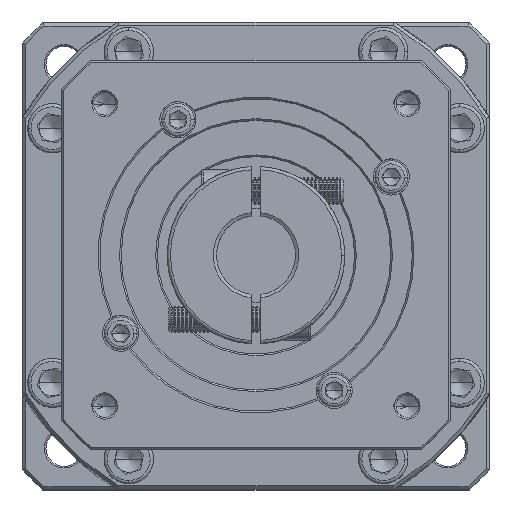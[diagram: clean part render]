
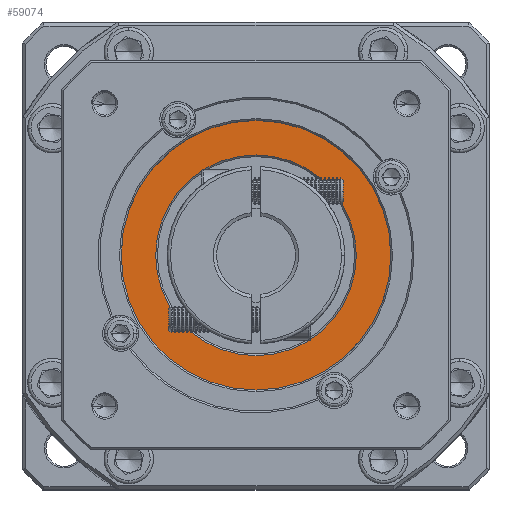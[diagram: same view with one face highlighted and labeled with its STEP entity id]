
A CAD part, top view. The second image highlights one B-rep face of the part: STEP entity #59074.
In plain terms, the highlighted planar face has unit normal (0, 0, 1).
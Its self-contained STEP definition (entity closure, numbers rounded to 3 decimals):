
#5688 = VERTEX_POINT ( 'NONE', #79241 ) ;
#8955 = CARTESIAN_POINT ( 'NONE',  ( -115.127, 57.494, -16.365 ) ) ;
#9331 = AXIS2_PLACEMENT_3D ( 'NONE', #24831, #24392, #45843 ) ;
#10752 = ORIENTED_EDGE ( 'NONE', *, *, #74951, .T. ) ;
#13183 = DIRECTION ( 'NONE',  ( 0., -1., 0. ) ) ;
#20784 = AXIS2_PLACEMENT_3D ( 'NONE', #112591, #73033, #13183 ) ;
#24392 = DIRECTION ( 'NONE',  ( 0., 0., 1. ) ) ;
#24831 = CARTESIAN_POINT ( 'NONE',  ( -115.127, 57.494, -16.365 ) ) ;
#24884 = AXIS2_PLACEMENT_3D ( 'NONE', #8955, #88761, #99197 ) ;
#33096 = PLANE ( 'NONE',  #101205 ) ;
#33825 = VERTEX_POINT ( 'NONE', #58615 ) ;
#34012 = DIRECTION ( 'NONE',  ( 1., 0., 0. ) ) ;
#37346 = EDGE_CURVE ( 'NONE', #33825, #5688, #52560, .T. ) ;
#45843 = DIRECTION ( 'NONE',  ( 1., 0., 0. ) ) ;
#45992 = ORIENTED_EDGE ( 'NONE', *, *, #37346, .T. ) ;
#46732 = CARTESIAN_POINT ( 'NONE',  ( -115.127, 87.994, -16.365 ) ) ;
#52560 = CIRCLE ( 'NONE', #57017, 41. ) ;
#52662 = EDGE_LOOP ( 'NONE', ( #45992, #85103 ) ) ;
#55203 = EDGE_CURVE ( 'NONE', #123706, #68941, #87366, .T. ) ;
#56327 = EDGE_CURVE ( 'NONE', #5688, #33825, #62813, .T. ) ;
#57017 = AXIS2_PLACEMENT_3D ( 'NONE', #102874, #73298, #34012 ) ;
#58615 = CARTESIAN_POINT ( 'NONE',  ( -74.127, 57.494, -16.365 ) ) ;
#59074 = ADVANCED_FACE ( 'NONE', ( #114414, #61552 ), #33096, .T. ) ;
#61552 = FACE_BOUND ( 'NONE', #76775, .T. ) ;
#62813 = CIRCLE ( 'NONE', #9331, 41. ) ;
#64945 = DIRECTION ( 'NONE',  ( 1., 0., 0. ) ) ;
#68941 = VERTEX_POINT ( 'NONE', #46732 ) ;
#73033 = DIRECTION ( 'NONE',  ( 0., 0., -1. ) ) ;
#73298 = DIRECTION ( 'NONE',  ( 0., 0., 1. ) ) ;
#74280 = ORIENTED_EDGE ( 'NONE', *, *, #55203, .T. ) ;
#74951 = EDGE_CURVE ( 'NONE', #68941, #123706, #126063, .T. ) ;
#76775 = EDGE_LOOP ( 'NONE', ( #74280, #10752 ) ) ;
#79241 = CARTESIAN_POINT ( 'NONE',  ( -156.127, 57.494, -16.365 ) ) ;
#85103 = ORIENTED_EDGE ( 'NONE', *, *, #56327, .T. ) ;
#87366 = CIRCLE ( 'NONE', #24884, 30.5 ) ;
#88761 = DIRECTION ( 'NONE',  ( 0., 0., -1. ) ) ;
#94495 = DIRECTION ( 'NONE',  ( 0., 0., 1. ) ) ;
#99197 = DIRECTION ( 'NONE',  ( 0., -1., 0. ) ) ;
#101205 = AXIS2_PLACEMENT_3D ( 'NONE', #124607, #94495, #64945 ) ;
#102874 = CARTESIAN_POINT ( 'NONE',  ( -115.127, 57.494, -16.365 ) ) ;
#106168 = CARTESIAN_POINT ( 'NONE',  ( -115.127, 26.994, -16.365 ) ) ;
#112591 = CARTESIAN_POINT ( 'NONE',  ( -115.127, 57.494, -16.365 ) ) ;
#114414 = FACE_OUTER_BOUND ( 'NONE', #52662, .T. ) ;
#123706 = VERTEX_POINT ( 'NONE', #106168 ) ;
#124607 = CARTESIAN_POINT ( 'NONE',  ( -115.127, 57.494, -16.365 ) ) ;
#126063 = CIRCLE ( 'NONE', #20784, 30.5 ) ;
